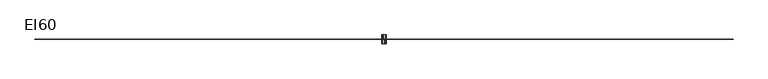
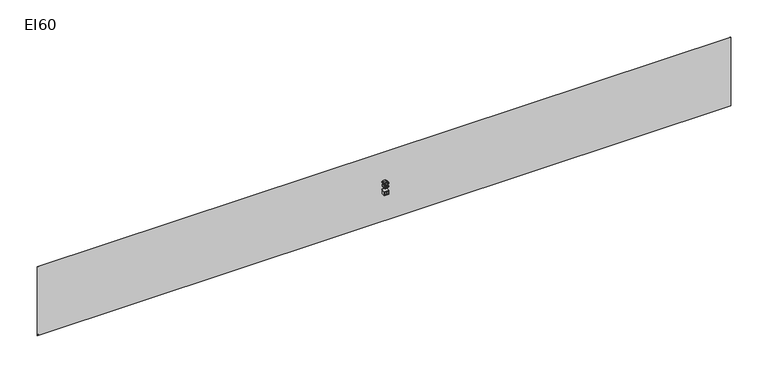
"""IFC4 building model written with IfcOpenShell, lengths in millimetres: proxy geometry, Fire_FireCompartmentationEI : EI60."""

from ifc_helpers import new_model, si_unit, point, frame, frame_2d, origin, origin_with_axes, place, context, project, spatial, polyline, circle_curve, trimmed, segment, composite_curve, outline, extrude, source, transform, mapped, element, save


def ei60_0075d285(model_context):
    return source(origin(), model_context, "Body", "SweptSolid", [
        extrude(outline(polyline([(23900.0, -0.5), (0.0, -0.5), (0.0, 0.5), (23900.0, 0.5), (23900.0, -0.5)])), origin_with_axes(), (0.0, 0.0, 1.0), 2500.0),
        extrude(outline(composite_curve([segment(trimmed(circle_curve(frame_2d((28.9488523, 20.9372462)), 4.3000253), [point((27.7936078, 25.0791815))], [point((29.724042, 25.1668205))], False, "CARTESIAN"), True, "CONTINUOUS"), segment(trimmed(circle_curve(frame_2d((29.6833004, 19.2917407)), 5.875221), [point((29.724042, 25.1668205))], [point((32.6283278, 24.3755421))], False, "CARTESIAN"), True, "CONTINUOUS"), segment(trimmed(circle_curve(frame_2d((32.8576867, 20.8662932)), 3.5167361), [point((32.6283278, 24.3755421))], [point((30.6249304, 23.5833197))], True, "CARTESIAN"), True, "CONTINUOUS"), segment(trimmed(circle_curve(frame_2d((10.876956, 53.8348059)), 36.1266511), [point((30.6249304, 23.5833197))], [point((25.8949704, 20.9776277))], False, "CARTESIAN"), True, "CONTINUOUS"), segment(trimmed(circle_curve(frame_2d((21.9041848, 33.757735)), 13.3887083), [point((25.8949704, 20.9776277))], [point((22.6832699, 20.3917132))], False, "CARTESIAN"), True, "CONTINUOUS"), segment(trimmed(circle_curve(frame_2d((20.9508608, 39.8789486)), 19.5640891), [point((22.6832699, 20.3917132))], [point((20.0109811, 20.3374489))], False, "CARTESIAN"), True, "CONTINUOUS"), segment(trimmed(circle_curve(frame_2d((18.2722891, 30.1747881)), 9.9898094), [point((20.0109811, 20.3374489))], [point((25.2489423, 23.0247809))], True, "CARTESIAN"), True, "CONTINUOUS"), segment(trimmed(circle_curve(frame_2d((30.9774835, 18.5323372)), 7.2799887), [point((25.2489423, 23.0247809))], [point((27.7936078, 25.0791815))], False, "CARTESIAN"), True, "CONTINUOUS")], self_intersect=False)), frame((0.0, -0.6, 0.0), z_axis=(0.0, 1.0, 0.0), x_axis=(0.0, 0.0, 1.0)), (0.0, 0.0, 1.0), 1.2),
        extrude(outline(composite_curve([segment(trimmed(circle_curve(frame_2d((34.8553456, 17.4656787)), 4.3823741), [point((35.4675373, 21.8050824))], [point((32.7666638, 21.3182897))], True, "CARTESIAN"), True, "CONTINUOUS"), segment(trimmed(circle_curve(frame_2d((31.0348418, 25.2412811)), 4.2882478), [point((32.7666638, 21.3182897))], [point((31.0556823, 20.9530839))], False, "CARTESIAN"), True, "CONTINUOUS"), segment(trimmed(circle_curve(frame_2d((30.8661112, 26.3534755)), 5.4037178), [point((31.0556823, 20.9530839))], [point((28.4262544, 21.5319337))], False, "CARTESIAN"), True, "CONTINUOUS"), segment(trimmed(circle_curve(frame_2d((28.9867579, 26.8058524)), 5.3036197), [point((28.4262544, 21.5319337))], [point((30.6443727, 21.7679267))], True, "CARTESIAN"), True, "CONTINUOUS"), segment(trimmed(circle_curve(frame_2d((33.7648144, 18.2895153)), 4.6729544), [point((30.6443727, 21.7679267))], [point((32.5632515, 22.8053485))], False, "CARTESIAN"), True, "CONTINUOUS"), segment(trimmed(circle_curve(frame_2d((33.1708117, 19.8529583)), 3.0142556), [point((32.5632515, 22.8053485))], [point((35.4675373, 21.8050824))], False, "CARTESIAN"), True, "CONTINUOUS")], self_intersect=False)), frame((0.0, -0.6, 0.0), z_axis=(0.0, 1.0, 0.0), x_axis=(0.0, 0.0, 1.0)), (0.0, 0.0, 1.0), 1.2),
        extrude(outline(composite_curve([segment(trimmed(circle_curve(frame_2d((26.35828, 17.8501973)), 2.1465167), [point((27.6612009, 19.5560492))], [point((26.6135063, 19.9814864))], True, "CARTESIAN"), True, "CONTINUOUS"), segment(trimmed(circle_curve(frame_2d((25.771558, 13.6747037)), 6.3627341), [point((26.6135063, 19.9814864))], [point((25.1811141, 20.0099828))], True, "CARTESIAN"), True, "CONTINUOUS"), segment(trimmed(circle_curve(frame_2d((27.6708438, 15.0485986)), 5.5510437), [point((25.1811141, 20.0099828))], [point((27.8117089, 20.5978547))], False, "CARTESIAN"), True, "CONTINUOUS"), segment(trimmed(circle_curve(frame_2d((27.9681735, 17.2267436)), 3.3747401), [point((27.8117089, 20.5978547))], [point((29.507487, 20.2299728))], False, "CARTESIAN"), True, "CONTINUOUS"), segment(trimmed(circle_curve(frame_2d((31.5381431, 23.6896238)), 4.0115769), [point((29.507487, 20.2299728))], [point((32.2223971, 19.7368341))], True, "CARTESIAN"), True, "CONTINUOUS"), segment(trimmed(circle_curve(frame_2d((29.9256715, 21.6889582)), 3.0142556), [point((32.2223971, 19.7368341))], [point((29.3181113, 18.736568))], False, "CARTESIAN"), True, "CONTINUOUS"), segment(trimmed(circle_curve(frame_2d((30.5170043, 23.2454076)), 4.6655095), [point((29.3181113, 18.736568))], [point((27.6612009, 19.5560492))], False, "CARTESIAN"), True, "CONTINUOUS")], self_intersect=False)), frame((0.0, -0.6, 0.0), z_axis=(0.0, 1.0, 0.0), x_axis=(0.0, 0.0, 1.0)), (0.0, 0.0, 1.0), 1.2),
        extrude(outline(composite_curve([segment(trimmed(circle_curve(frame_2d((32.8467056, 19.4711557)), 3.5167361), [point((30.6139493, 16.7541292))], [point((32.6173467, 15.9619068))], True, "CARTESIAN"), True, "CONTINUOUS"), segment(trimmed(circle_curve(frame_2d((29.6723193, 21.0457082)), 5.875221), [point((32.6173467, 15.9619068))], [point((29.7130609, 15.1706284))], False, "CARTESIAN"), True, "CONTINUOUS"), segment(trimmed(circle_curve(frame_2d((28.9378712, 19.4002026)), 4.3000253), [point((29.7130609, 15.1706284))], [point((27.7826267, 15.2582674))], False, "CARTESIAN"), True, "CONTINUOUS"), segment(trimmed(circle_curve(frame_2d((30.9665024, 21.8051117)), 7.2799887), [point((27.7826267, 15.2582674))], [point((25.2379612, 17.312668))], False, "CARTESIAN"), True, "CONTINUOUS"), segment(trimmed(circle_curve(frame_2d((18.261308, 10.1626608)), 9.9898094), [point((25.2379612, 17.312668))], [point((20.0, 20.0))], True, "CARTESIAN"), True, "CONTINUOUS"), segment(trimmed(circle_curve(frame_2d((20.9398797, 0.4585003)), 19.5640891), [point((20.0, 20.0))], [point((22.6722888, 19.9457357))], False, "CARTESIAN"), True, "CONTINUOUS"), segment(trimmed(circle_curve(frame_2d((21.8932037, 6.5797139)), 13.3887083), [point((22.6722888, 19.9457357))], [point((25.8839893, 19.3598212))], False, "CARTESIAN"), True, "CONTINUOUS"), segment(trimmed(circle_curve(frame_2d((10.8659749, -13.497357)), 36.1266511), [point((25.8839893, 19.3598212))], [point((30.6139493, 16.7541292))], False, "CARTESIAN"), True, "CONTINUOUS")], self_intersect=False)), frame((0.0, -0.6, 0.0), z_axis=(0.0, 1.0, 0.0), x_axis=(0.0, 0.0, 1.0)), (0.0, 0.0, 1.0), 1.2),
        extrude(outline(polyline([(1022.7960798, 11875.0), (1022.7960798, 12025.6844652), (1131.1005392, 12025.6844652), (1131.1005392, 12006.8489071), (1041.6316379, 12006.8489071), (1041.6316379, 11962.1144565), (1126.3916496, 11962.1144565), (1126.3916496, 11943.2788983), (1041.6316379, 11943.2788983), (1041.6316379, 11893.8355582), (1133.4549839, 11893.8355582), (1133.4549839, 11875.0), (1022.7960798, 11875.0)])), frame((0.0, 0.0, 0.0), z_axis=(0.0, 1.0, 0.0), x_axis=(0.0, 0.0, 1.0)), (0.0, 0.0, 1.0), 150.0),
        extrude(outline(polyline([(11875.0, 150.0), (12025.6844652, 150.0), (12025.6844652, 0.0), (11875.0, 0.0), (11875.0, 150.0)])), frame((0.0, 0.0, 1164.0627659), z_axis=(0.0, 0.0, 1.0), x_axis=(1.0, 0.0, 0.0)), (0.0, 0.0, 1.0), 18.8355582),
        extrude(outline(polyline([(1368.8994608, 11985.6589041), (1350.0639027, 11983.3044594), (1342.926992, 11999.0130206), (1334.3829326, 12004.8899354), (1324.0546456, 12006.8489071), (1307.0584975, 12002.2871703), (1294.2010217, 11985.1622635), (1290.296874, 11971.1321639), (1288.8483387, 11951.5930314), (1305.4582108, 11966.6210109), (1326.0412084, 11971.5322355), (1343.4420268, 11968.1753123), (1358.046942, 11958.1045427), (1367.9521647, 11942.7178783), (1371.2539056, 11923.4132706), (1369.6996042, 11909.9257969), (1365.0366999, 11897.4224076), (1357.6514688, 11886.8182091), (1347.9301871, 11879.0283078), (1336.3143131, 11874.2412434), (1323.2453052, 11872.6455552), (1301.8759598, 11876.8761982), (1284.856819, 11889.568127), (1273.7237902, 11911.9721405), (1270.0127805, 11945.3390375), (1274.1330589, 11982.8538039), (1286.4938939, 12008.504376), (1303.3704805, 12021.3894429), (1325.231868, 12025.6844652), (1341.7589666, 12023.0265178), (1354.9935214, 12015.0526756), (1364.2641477, 12002.3883379), (1368.8994608, 11985.6589041)]), holes=[polyline([(1288.8483387, 11923.7075762), (1293.2077403, 11907.3920097), (1304.7960232, 11895.5462094), (1321.7737773, 11891.4811134), (1334.2035902, 11893.5872378), (1343.9754557, 11899.9056111), (1350.3076245, 11909.8384249), (1352.4183475, 11922.7878712), (1350.3352157, 11935.2176841), (1344.0858203, 11944.695244), (1334.1484079, 11950.696319), (1321.0012251, 11952.6966774), (1308.5898063, 11950.696319), (1298.2109355, 11944.695244), (1291.1889879, 11935.4476103), (1288.8483387, 11923.7075762)])]), frame((0.0, 0.0, 0.0), z_axis=(0.0, 1.0, 0.0), x_axis=(0.0, 0.0, 1.0)), (0.0, 0.0, 1.0), 150.0),
        extrude(outline(polyline([(1387.735019, 11949.128222), (1389.119175, 11973.2474853), (1393.271643, 11992.4831152), (1400.1510363, 12007.1294171), (1409.7159682, 12017.4806967), (1422.0354165, 12023.6335231), (1437.1783591, 12025.6844652), (1459.1777025, 12020.8284229), (1474.3712289, 12006.830513), (1483.2003967, 11984.5368641), (1486.6216993, 11949.128222), (1485.2513389, 11925.1469145), (1481.1402576, 11905.9572699), (1474.302251, 11891.2971724), (1464.7511147, 11880.904506), (1452.4040752, 11874.7102929), (1437.1783591, 11872.6455552), (1417.607037, 11876.2324047), (1402.7446044, 11886.992953), (1391.4874153, 11912.4779783), (1387.735019, 11949.128222)]), holes=[polyline([(1406.5705771, 11949.1650102), (1408.7778691, 11919.536714), (1415.399745, 11902.3888145), (1425.2589825, 11894.2080387), (1437.1783591, 11891.4811134), (1449.0977358, 11894.2172357), (1458.9569733, 11902.4256027), (1465.5788492, 11919.5826993), (1467.7861411, 11949.1650102), (1465.6524256, 11978.1265203), (1459.2512789, 11995.407777), (1449.4104355, 12003.9886246), (1436.9576299, 12006.8489071), (1425.167012, 12004.3289154), (1415.6940506, 11996.7689404), (1408.8514455, 11978.4116288), (1406.5705771, 11949.1650102)])]), frame((0.0, 0.0, 0.0), z_axis=(0.0, 1.0, 0.0), x_axis=(0.0, 0.0, 1.0)), (0.0, 0.0, 1.0), 150.0),
        extrude(outline(polyline([(1022.7960798, 12025.0), (1133.4549839, 12025.0), (1133.4549839, 12006.1644418), (1041.6316379, 12006.1644418), (1041.6316379, 11956.7211017), (1126.3916496, 11956.7211017), (1126.3916496, 11937.8855435), (1041.6316379, 11937.8855435), (1041.6316379, 11893.1510929), (1131.1005392, 11893.1510929), (1131.1005392, 11874.3155348), (1022.7960798, 11874.3155348), (1022.7960798, 12025.0)])), frame((0.0, -150.0, 0.0), z_axis=(0.0, 1.0, 0.0), x_axis=(0.0, 0.0, 1.0)), (0.0, 0.0, 1.0), 150.0),
        extrude(outline(polyline([(12025.0, -150.0), (11874.3155348, -150.0), (11874.3155348, 0.0), (12025.0, 0.0), (12025.0, -150.0)])), frame((0.0, 0.0, 1164.0627659), z_axis=(0.0, 0.0, 1.0), x_axis=(1.0, 0.0, 0.0)), (0.0, 0.0, 1.0), 18.8355582),
        extrude(outline(polyline([(1368.8994608, 11914.3410959), (1364.2641477, 11897.6116621), (1354.9935214, 11884.9473244), (1341.7589666, 11876.9734822), (1325.231868, 11874.3155348), (1303.3704805, 11878.6105571), (1286.4938939, 11891.495624), (1274.1330589, 11917.1461961), (1270.0127805, 11954.6609625), (1273.7237902, 11988.0278595), (1284.856819, 12010.431873), (1301.8759598, 12023.1238018), (1323.2453052, 12027.3544448), (1336.3143131, 12025.7587566), (1347.9301871, 12020.9716922), (1357.6514688, 12013.1817909), (1365.0366999, 12002.5775924), (1369.6996042, 11990.0742031), (1371.2539056, 11976.5867294), (1367.9521647, 11957.2821217), (1358.046942, 11941.8954573), (1343.4420268, 11931.8246877), (1326.0412084, 11928.4677645), (1305.4582108, 11933.3789891), (1288.8483387, 11948.4069686), (1290.296874, 11928.8678361), (1294.2010217, 11914.8377365), (1307.0584975, 11897.7128297), (1324.0546456, 11893.1510929), (1334.3829326, 11895.1100646), (1342.926992, 11900.9869794), (1350.0639027, 11916.6955406), (1368.8994608, 11914.3410959)]), holes=[polyline([(1288.8483387, 11976.2924238), (1291.1889879, 11964.5523897), (1298.2109355, 11955.304756), (1308.5898063, 11949.303681), (1321.0012251, 11947.3033226), (1334.1484079, 11949.303681), (1344.0858203, 11955.304756), (1350.3352157, 11964.7823159), (1352.4183475, 11977.2121288), (1350.3076245, 11990.1615751), (1343.9754557, 12000.0943889), (1334.2035902, 12006.4127622), (1321.7737773, 12008.5188866), (1304.7960232, 12004.4537906), (1293.2077403, 11992.6079903), (1288.8483387, 11976.2924238)])]), frame((0.0, -150.0, 0.0), z_axis=(0.0, 1.0, 0.0), x_axis=(0.0, 0.0, 1.0)), (0.0, 0.0, 1.0), 150.0),
        extrude(outline(polyline([(1387.735019, 11950.871778), (1391.4874153, 11987.5220217), (1402.7446044, 12013.007047), (1417.607037, 12023.7675953), (1437.1783591, 12027.3544448), (1452.4040752, 12025.2897071), (1464.7511147, 12019.095494), (1474.302251, 12008.7028276), (1481.1402576, 11994.0427301), (1485.2513389, 11974.8530855), (1486.6216993, 11950.871778), (1483.2003967, 11915.4631359), (1474.3712289, 11893.169487), (1459.1777025, 11879.1715771), (1437.1783591, 11874.3155348), (1422.0354165, 11876.3664769), (1409.7159682, 11882.5193033), (1400.1510363, 11892.8705829), (1393.271643, 11907.5168848), (1389.119175, 11926.7525147), (1387.735019, 11950.871778)]), holes=[polyline([(1406.5705771, 11950.8349898), (1408.8514455, 11921.5883712), (1415.6940506, 11903.2310596), (1425.167012, 11895.6710846), (1436.9576299, 11893.1510929), (1449.4104355, 11896.0113754), (1459.2512789, 11904.592223), (1465.6524256, 11921.8734797), (1467.7861411, 11950.8349898), (1465.5788492, 11980.4173007), (1458.9569733, 11997.5743973), (1449.0977358, 12005.7827643), (1437.1783591, 12008.5188866), (1425.2589825, 12005.7919613), (1415.399745, 11997.6111855), (1408.7778691, 11980.463286), (1406.5705771, 11950.8349898)])]), frame((0.0, -150.0, 0.0), z_axis=(0.0, 1.0, 0.0), x_axis=(0.0, 0.0, 1.0)), (0.0, 0.0, 1.0), 150.0),
    ])


if __name__ == "__main__":
    model = new_model("IFC4")
    model_context = context("Model", 3, world=origin())
    ifc_project = project(units=[si_unit("LENGTHUNIT", "METRE", prefix="MILLI")], contexts=[model_context])
    site = spatial("IfcSite", under=ifc_project)
    building = spatial("IfcBuilding", under=site)
    placement = place(None, origin())
    ei60_shape = ei60_0075d285(model_context)
    element("IfcBuildingElementProxy", 1, Name="Fire_FireCompartmentationEI : EI60", ObjectType="Fire_FireCompartmentationEI : EI60", at=placement, inside=building, context=model_context, shape_type="MappedRepresentation", body=[
        mapped(ei60_shape, transform((0.0, 0.0, 0.0), x_axis=(1.0, 0.0, 0.0), y_axis=(0.0, 1.0, 0.0), z_axis=(0.0, 0.0, 1.0))),
    ])
    save(model, "model.ifc")
